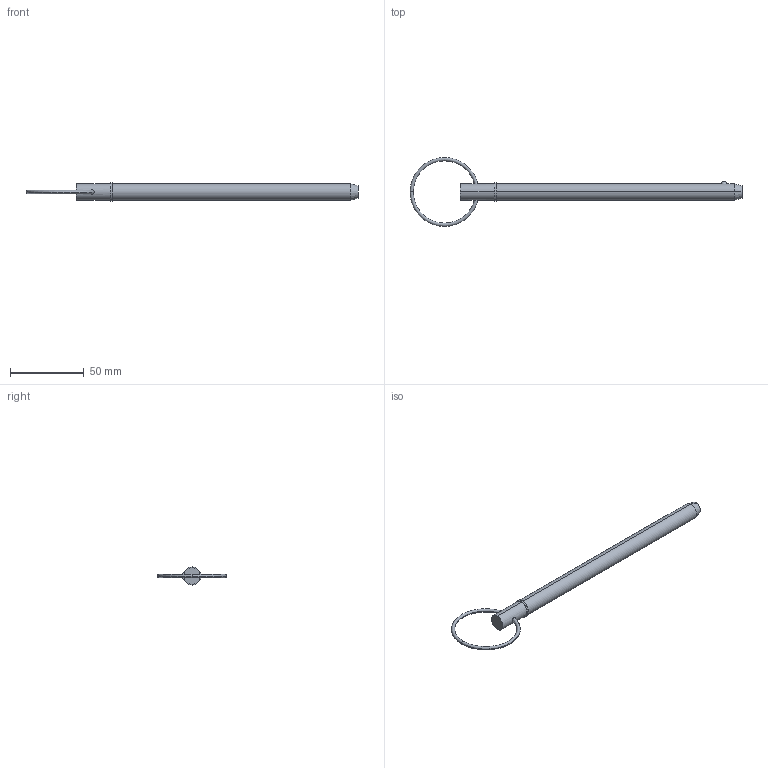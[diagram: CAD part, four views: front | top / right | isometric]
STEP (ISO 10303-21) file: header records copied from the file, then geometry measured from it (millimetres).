
FILE_DESCRIPTION (( 'STEP AP203' ), '1' );
FILE_NAME ('33016.W4360.step', '2024-11-07T11:08:13', ( '' ), ( '' ), 'SwSTEP 2.0', 'SolidWorks 2019', '' );
FILE_SCHEMA (( 'CONFIG_CONTROL_DESIGN' ));
Length unit declared in the file: millimetre
Products named in the file (3): 33016.W4360; Part1_33016.W4360; Part2_33016.W4360
Assembly tree (2 placements, depth 2):
  33016.W4360
    Part1_33016.W4360
    Part2_33016.W4360
Bounding box: 225.02 x 46.67 x 12.22 mm (x, y, z)
Volume: 18890.2 mm3; surface area: 7905.8 mm2
Topology: 2 solids, 2 shells, 22 faces, 43 edges, 26 vertices
Faces by surface type: torus 8, cylinder 6, plane 4, sphere 2, cone 2
Entity records: 1023 total; most frequent: CARTESIAN_POINT 246, DIRECTION 120, ORIENTED_EDGE 86, AXIS2_PLACEMENT_3D 56, EDGE_CURVE 43, CIRCLE 29, EDGE_LOOP 27, VERTEX_POINT 26
